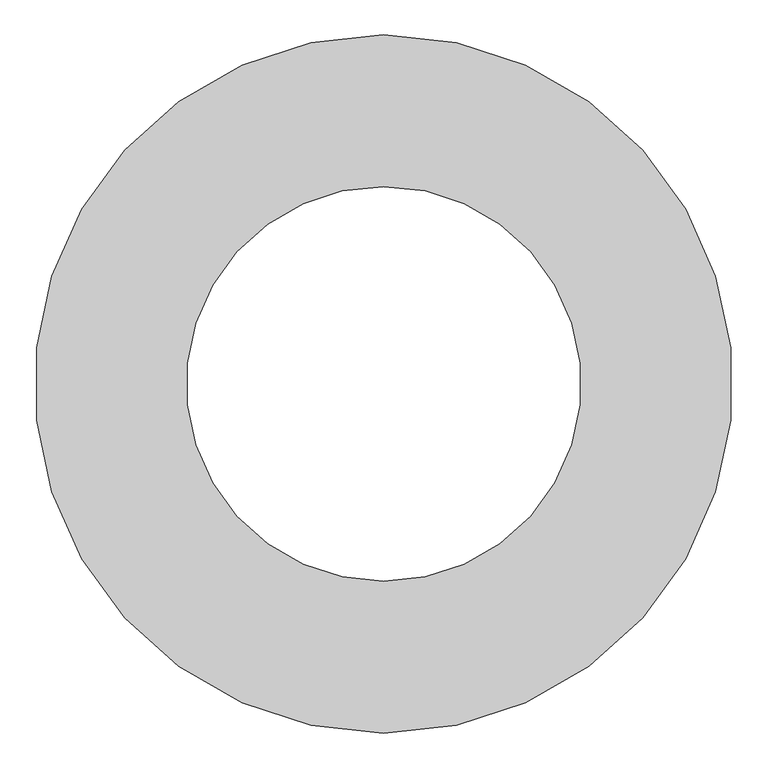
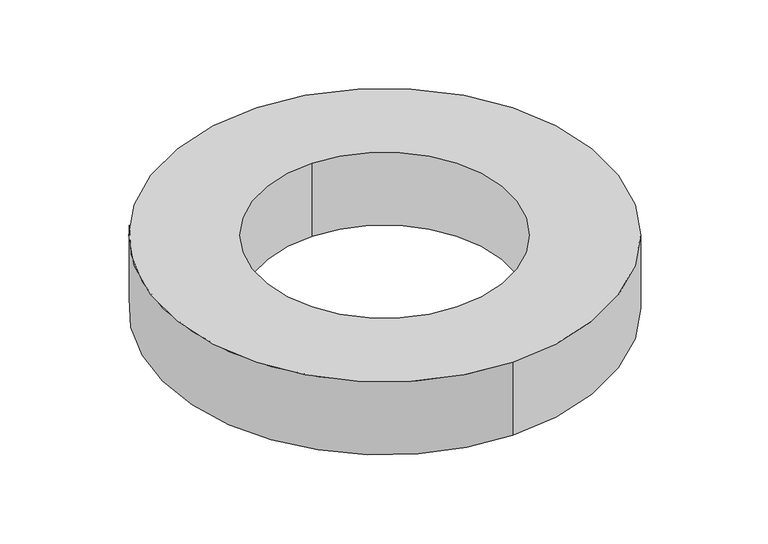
"""IFC4 building model written with IfcOpenShell, lengths in millimetres: valve geometry, Pipelife - Studnia PRO - Pierścień : Studnia Pierścień odciążający do studni 630."""

from ifc_helpers import new_model, si_unit, point, frame, origin, origin_2d, place, context, project, spatial, circle_curve, trimmed, segment, composite_curve, outline, extrude, source, transform, mapped, element, save


def valve_3d2135d6(model_context):
    return source(origin(), model_context, "Body", "SweptSolid", [
        extrude(outline(composite_curve([segment(trimmed(circle_curve(origin_2d(), 575.0), [point((0.0, 575.0))], [point((0.0, -575.0))], False, "CARTESIAN"), True, "CONTINUOUS"), segment(trimmed(circle_curve(origin_2d(), 575.0), [point((0.0, -575.0))], [point((0.0, 575.0))], False, "CARTESIAN"), True, "CONTINUOUS")], self_intersect=False), holes=[composite_curve([segment(trimmed(circle_curve(origin_2d(), 325.0), [point((0.0, 325.0))], [point((0.0, -325.0))], True, "CARTESIAN"), True, "CONTINUOUS"), segment(trimmed(circle_curve(origin_2d(), 325.0), [point((0.0, -325.0))], [point((0.0, 325.0))], True, "CARTESIAN"), True, "CONTINUOUS")], self_intersect=False)]), frame((0.0, 0.0, -40.0), z_axis=(0.0, 0.0, 1.0), x_axis=(1.0, 0.0, 0.0)), (0.0, 0.0, 1.0), 200.0),
    ])


if __name__ == "__main__":
    model = new_model("IFC4")
    model_context = context("Model", 3, world=origin())
    ifc_project = project(units=[si_unit("LENGTHUNIT", "METRE", prefix="MILLI")], contexts=[model_context])
    site = spatial("IfcSite", under=ifc_project)
    building = spatial("IfcBuilding", under=site)
    placement = place(None, origin())
    valve_shape = valve_3d2135d6(model_context)
    element("IfcValve", 1, ObjectType="Pipelife - Studnia PRO - Pierścień : Studnia Pierścień odciążający do studni 630", at=placement, inside=building, context=model_context, shape_type="MappedRepresentation", body=[
        mapped(valve_shape, transform((0.0, 0.0, 0.0), x_axis=(1.0, 0.0, 0.0), y_axis=(0.0, 1.0, 0.0), z_axis=(0.0, 0.0, 1.0))),
    ])
    save(model, "model.ifc")
